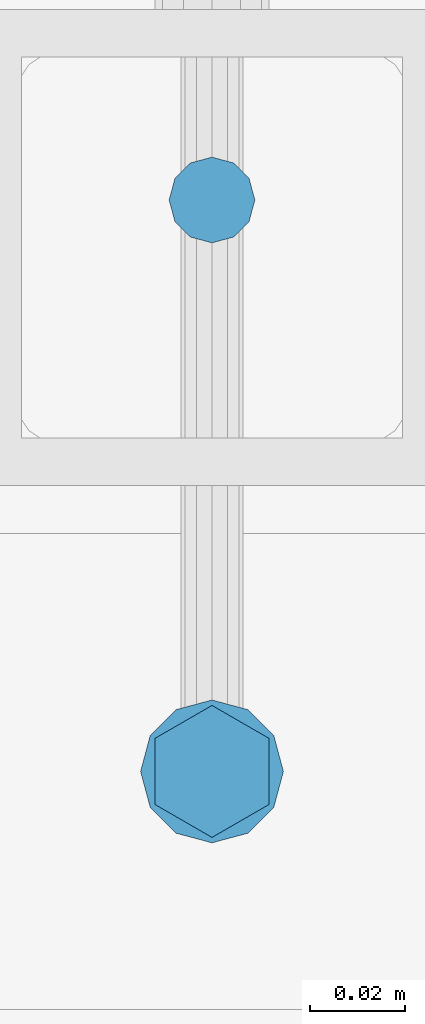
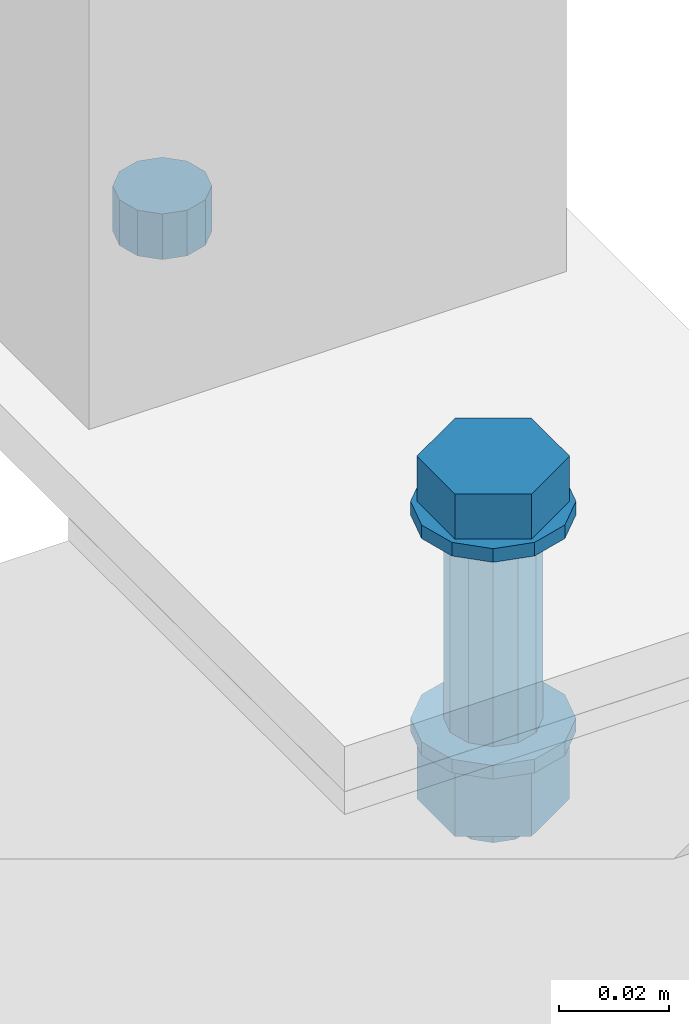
# One storey, part 107 of 1530: 2 mechanical fasteners.
"""IFC2X3 building model written with IfcOpenShell, lengths in millimetres."""

from ifc_helpers import new_model, si_unit, frame, origin_with_axes, place, context, subcontext, project, spatial, faceted_brep, source, transform, mapped, material, type_object, element, save


model = new_model("IFC2X3")

# Units and contexts
model_context = context("Model", 3, precision=1e-05, world=origin_with_axes())
body_context = subcontext(model_context, "Body", "Model", "MODEL_VIEW")
ifc_project = project(units=[si_unit("LENGTHUNIT", "METRE", prefix="MILLI"), si_unit("AREAUNIT", "SQUARE_METRE"), si_unit("VOLUMEUNIT", "CUBIC_METRE"), si_unit("MASSUNIT", "GRAM", prefix="KILO"), si_unit("TIMEUNIT", "SECOND"), si_unit("PLANEANGLEUNIT", "RADIAN"), si_unit("SOLIDANGLEUNIT", "STERADIAN"), si_unit("THERMODYNAMICTEMPERATUREUNIT", "DEGREE_CELSIUS"), si_unit("LUMINOUSINTENSITYUNIT", "LUMEN")], contexts=[model_context])

# Site, building, storey
site_placement = place(None, origin_with_axes())
site = spatial("IfcSite", under=ifc_project, at=site_placement, Name="Brattvåg", CompositionType="ELEMENT")
building_placement = place(site_placement, origin_with_axes())
building = spatial("IfcBuilding", under=site, at=building_placement, Name="Undefined", CompositionType="ELEMENT")
storey_placement = place(building_placement, origin_with_axes())
storey = spatial("IfcBuildingStorey", under=building, at=storey_placement, Name="Undefined", CompositionType="ELEMENT", Elevation=0.0)

# Mechanical fasteners
ifc_material = material(Name="8")
mechanical_fastener_type = type_object("IfcMechanicalFastenerType", Name="Bolt assembly")
shared_shape_1 = source(origin_with_axes(), body_context, "Body", "Brep", [
    faceted_brep([(9.0, -0.000108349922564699, 0.0), (7.79422863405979, -0.000108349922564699, 4.50000000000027), (4.49999999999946, -0.000108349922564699, 7.79422863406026), (-9.3270238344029e-13, -0.000108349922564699, 9.0), (-4.50000000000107, -0.000108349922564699, 7.79422863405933), (-7.79422863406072, -0.000108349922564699, 4.49999999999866), (-9.0, -0.000108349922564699, -1.86540476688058e-12), (-7.79422863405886, -0.000108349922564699, -4.50000000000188), (-4.49999999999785, -0.000108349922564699, -7.79422863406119), (2.78811514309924e-12, -0.000108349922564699, -9.0), (4.50000000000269, -0.000108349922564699, -7.7942286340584), (7.79422863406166, -0.000108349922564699, -4.49999999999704), (7.79422863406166, 10.0998916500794, -4.49999999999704), (4.50000000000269, 10.0998916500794, -7.7942286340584), (2.78811514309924e-12, 10.0998916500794, -9.0), (-4.49999999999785, 10.0998916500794, -7.79422863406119), (-7.79422863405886, 10.0998916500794, -4.50000000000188), (-9.0, 10.0998916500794, -1.86540476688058e-12), (-7.79422863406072, 10.0998916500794, 4.49999999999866), (-4.50000000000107, 10.0998916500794, 7.79422863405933), (-9.3270238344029e-13, 10.0998916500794, 9.0), (4.49999999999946, 10.0998916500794, 7.79422863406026), (7.79422863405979, 10.0998916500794, 4.50000000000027), (9.0, 10.0998916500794, 0.0)], [[[0, 1, 2, 3, 4, 5, 6, 7, 8, 9, 10, 11]], [[12, 13, 14, 15, 16, 17, 18, 19, 20, 21, 22, 23]], [[0, 23, 22, 1]], [[1, 22, 21, 2]], [[2, 21, 20, 3]], [[3, 20, 19, 4]], [[4, 19, 18, 5]], [[5, 18, 17, 6]], [[6, 17, 16, 7]], [[7, 16, 15, 8]], [[8, 15, 14, 9]], [[9, 14, 13, 10]], [[10, 13, 12, 11]], [[11, 12, 23, 0]]]),
])
mechanical_fastener_1_placement = place(storey_placement, frame((16045.0001602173, 9219.99992874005, -855.000061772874), z_axis=(-1.0, 1.99999855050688e-09, 0.0), x_axis=(0.0, -0.99999999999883, 1.53000000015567e-06)))
element("IfcMechanicalFastener", 1, at=mechanical_fastener_1_placement, inside=storey, type_object=mechanical_fastener_type, material=ifc_material, Name="Bolt assembly", NominalDiameter=16.0, NominalLength=10.0001087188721, context=body_context, shape_type="MappedRepresentation", body=[
    mapped(shared_shape_1, transform((0.0, 0.0, 0.0))),
])
shared_shape_2 = source(origin_with_axes(), body_context, "Body", "Brep", [
    faceted_brep([(13.856406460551, -12.9998916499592, 0.0), (6.92820323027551, -12.9998916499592, 12.0), (-6.92820323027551, -12.9998916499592, 12.0), (-13.856406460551, -12.9998916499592, 1.69692038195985e-15), (-6.92820323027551, -12.9998916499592, -12.0), (6.9282032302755, -12.9998916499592, -12.0), (6.9282032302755, -2.99989164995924, -12.0), (-6.92820323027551, -2.99989164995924, -12.0), (-13.856406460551, -2.99989164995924, 1.69692038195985e-15), (-6.92820323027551, -2.99989164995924, 12.0), (6.92820323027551, -2.99989164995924, 12.0), (13.856406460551, -2.99989164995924, 0.0), (8.0, -2.99989164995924, 0.0), (6.92820323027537, -2.99989164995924, 4.00000000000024), (3.99999999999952, -2.99989164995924, 6.92820323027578), (-8.29068785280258e-13, -2.99989164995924, 8.0), (-4.00000000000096, -2.99989164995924, 6.92820323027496), (-6.9282032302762, -2.99989164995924, 3.99999999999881), (-8.0, -2.99989164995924, -1.65813757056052e-12), (-6.92820323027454, -2.99989164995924, -4.00000000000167), (-3.99999999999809, -2.99989164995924, -6.92820323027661), (2.47832457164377e-12, -2.99989164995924, -8.0), (4.00000000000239, -2.99989164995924, -6.92820323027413), (6.92820323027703, -2.99989164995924, -3.99999999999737), (6.92820323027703, 67.0001083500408, -3.99999999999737), (4.00000000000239, 67.0001083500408, -6.92820323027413), (2.47832457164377e-12, 67.0001083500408, -8.0), (-3.99999999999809, 67.0001083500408, -6.92820323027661), (-6.92820323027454, 67.0001083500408, -4.00000000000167), (-8.0, 67.0001083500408, -1.65813757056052e-12), (-6.9282032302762, 67.0001083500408, 3.99999999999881), (-4.00000000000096, 67.0001083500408, 6.92820323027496), (-8.29068785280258e-13, 67.0001083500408, 8.0), (3.99999999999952, 67.0001083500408, 6.92820323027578), (6.92820323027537, 67.0001083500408, 4.00000000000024), (8.0, 67.0001083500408, 0.0), (15.0, -2.99989164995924, 0.0), (12.9903810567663, -2.99989164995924, 7.50000000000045), (7.4999999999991, -2.99989164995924, 12.9903810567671), (-1.55450397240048e-12, -2.99989164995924, 15.0), (-7.50000000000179, -2.99989164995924, 12.9903810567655), (-12.9903810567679, -2.99989164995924, 7.49999999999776), (-15.0, -2.99989164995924, -3.10900794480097e-12), (-12.9903810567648, -2.99989164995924, -7.50000000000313), (-7.49999999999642, -2.99989164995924, -12.9903810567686), (4.64685857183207e-12, -2.99989164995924, -15.0), (7.50000000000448, -2.99989164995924, -12.990381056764), (12.9903810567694, -2.99989164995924, -7.49999999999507), (12.9903810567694, 0.000108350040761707, -7.49999999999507), (7.50000000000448, 0.000108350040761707, -12.990381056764), (4.64685857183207e-12, 0.000108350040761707, -15.0), (-7.49999999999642, 0.000108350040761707, -12.9903810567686), (-12.9903810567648, 0.000108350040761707, -7.50000000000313), (-15.0, 0.000108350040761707, -3.10900794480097e-12), (-12.9903810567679, 0.000108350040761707, 7.49999999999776), (-7.50000000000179, 0.000108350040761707, 12.9903810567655), (-1.55450397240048e-12, 0.000108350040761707, 15.0), (7.4999999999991, 0.000108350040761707, 12.9903810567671), (12.9903810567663, 0.000108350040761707, 7.50000000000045), (15.0, 0.000108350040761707, 0.0), (15.0, 45.0001982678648, 0.0), (12.9903810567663, 45.0001982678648, 7.50000000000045), (7.4999999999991, 45.0001982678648, 12.9903810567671), (-1.55450397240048e-12, 45.0001982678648, 15.0), (-7.50000000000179, 45.0001982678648, 12.9903810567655), (-12.9903810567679, 45.0001982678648, 7.49999999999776), (-15.0, 45.0001982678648, -3.10900794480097e-12), (-12.9903810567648, 45.0001982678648, -7.50000000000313), (-7.49999999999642, 45.0001982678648, -12.9903810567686), (4.64685857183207e-12, 45.0001982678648, -15.0), (7.50000000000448, 45.0001982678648, -12.990381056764), (12.9903810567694, 45.0001982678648, -7.49999999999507), (12.9903810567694, 48.0001982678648, -7.49999999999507), (7.50000000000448, 48.0001982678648, -12.990381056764), (4.64685857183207e-12, 48.0001982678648, -15.0), (-7.49999999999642, 48.0001982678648, -12.9903810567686), (-12.9903810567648, 48.0001982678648, -7.50000000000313), (-15.0, 48.0001982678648, -3.10900794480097e-12), (-12.9903810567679, 48.0001982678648, 7.49999999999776), (-7.50000000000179, 48.0001982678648, 12.9903810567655), (-1.55450397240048e-12, 48.0001982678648, 15.0), (7.4999999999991, 48.0001982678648, 12.9903810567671), (12.9903810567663, 48.0001982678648, 7.50000000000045), (15.0, 48.0001982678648, 0.0), (13.856406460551, 48.0001982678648, 0.0), (6.92820323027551, 48.0001982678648, 12.0), (-6.92820323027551, 48.0001982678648, 12.0), (-13.856406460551, 48.0001982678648, 1.69692038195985e-15), (-6.92820323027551, 48.0001982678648, -12.0), (6.9282032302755, 48.0001982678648, -12.0), (6.9282032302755, 62.8001984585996, -12.0), (-6.92820323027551, 62.8001984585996, -12.0), (-13.856406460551, 62.8001984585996, 1.69692038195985e-15), (-6.92820323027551, 62.8001984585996, 12.0), (6.92820323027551, 62.8001984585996, 12.0), (13.856406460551, 62.8001984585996, 0.0)], [[[0, 1, 2, 3, 4, 5]], [[6, 7, 8, 9, 10, 11]], [[0, 11, 10, 1]], [[1, 10, 9, 2]], [[2, 9, 8, 3]], [[3, 8, 7, 4]], [[4, 7, 6, 5]], [[5, 6, 11, 0]], [[12, 13, 14, 15, 16, 17, 18, 19, 20, 21, 22, 23]], [[24, 25, 26, 27, 28, 29, 30, 31, 32, 33, 34, 35]], [[12, 35, 34, 13]], [[13, 34, 33, 14]], [[14, 33, 32, 15]], [[15, 32, 31, 16]], [[16, 31, 30, 17]], [[17, 30, 29, 18]], [[18, 29, 28, 19]], [[19, 28, 27, 20]], [[20, 27, 26, 21]], [[21, 26, 25, 22]], [[22, 25, 24, 23]], [[23, 24, 35, 12]], [[36, 37, 38, 39, 40, 41, 42, 43, 44, 45, 46, 47]], [[48, 49, 50, 51, 52, 53, 54, 55, 56, 57, 58, 59]], [[36, 59, 58, 37]], [[37, 58, 57, 38]], [[38, 57, 56, 39]], [[39, 56, 55, 40]], [[40, 55, 54, 41]], [[41, 54, 53, 42]], [[42, 53, 52, 43]], [[43, 52, 51, 44]], [[44, 51, 50, 45]], [[45, 50, 49, 46]], [[46, 49, 48, 47]], [[47, 48, 59, 36]], [[60, 61, 62, 63, 64, 65, 66, 67, 68, 69, 70, 71]], [[72, 73, 74, 75, 76, 77, 78, 79, 80, 81, 82, 83]], [[60, 83, 82, 61]], [[61, 82, 81, 62]], [[62, 81, 80, 63]], [[63, 80, 79, 64]], [[64, 79, 78, 65]], [[65, 78, 77, 66]], [[66, 77, 76, 67]], [[67, 76, 75, 68]], [[68, 75, 74, 69]], [[69, 74, 73, 70]], [[70, 73, 72, 71]], [[71, 72, 83, 60]], [[84, 85, 86, 87, 88, 89]], [[90, 91, 92, 93, 94, 95]], [[84, 95, 94, 85]], [[85, 94, 93, 86]], [[86, 93, 92, 87]], [[87, 92, 91, 88]], [[88, 91, 90, 89]], [[89, 90, 95, 84]]]),
    faceted_brep([(9.0, 0.100108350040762, 0.0), (7.79422863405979, 0.100108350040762, 4.50000000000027), (4.49999999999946, 0.100108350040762, 7.79422863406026), (-9.3270238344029e-13, 0.100108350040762, 9.0), (-4.50000000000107, 0.100108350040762, 7.79422863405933), (-7.79422863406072, 0.100108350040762, 4.49999999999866), (-9.0, 0.100108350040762, -1.86540476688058e-12), (-7.79422863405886, 0.100108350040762, -4.50000000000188), (-4.49999999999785, 0.100108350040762, -7.79422863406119), (2.78811514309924e-12, 0.100108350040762, -9.0), (4.50000000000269, 0.100108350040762, -7.7942286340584), (7.79422863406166, 0.100108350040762, -4.49999999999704), (7.79422863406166, 10.10010835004, -4.49999999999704), (4.50000000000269, 10.10010835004, -7.7942286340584), (2.78811514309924e-12, 10.10010835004, -9.0), (-4.49999999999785, 10.10010835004, -7.79422863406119), (-7.79422863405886, 10.10010835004, -4.50000000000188), (-9.0, 10.10010835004, -1.86540476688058e-12), (-7.79422863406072, 10.10010835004, 4.49999999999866), (-4.50000000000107, 10.10010835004, 7.79422863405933), (-9.3270238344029e-13, 10.10010835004, 9.0), (4.49999999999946, 10.10010835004, 7.79422863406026), (7.79422863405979, 10.10010835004, 4.50000000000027), (9.0, 10.10010835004, 0.0), (9.0, 10.0002383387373, 0.0), (7.79422863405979, 10.0002383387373, 4.50000000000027), (4.49999999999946, 10.0002383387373, 7.79422863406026), (-9.3270238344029e-13, 10.0002383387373, 9.0), (-4.50000000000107, 10.0002383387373, 7.79422863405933), (-7.79422863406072, 10.0002383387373, 4.49999999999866), (-9.0, 10.0002383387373, -1.86540476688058e-12), (-7.79422863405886, 10.0002383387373, -4.50000000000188), (-4.49999999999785, 10.0002383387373, -7.79422863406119), (2.78811514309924e-12, 10.0002383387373, -9.0), (4.50000000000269, 10.0002383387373, -7.7942286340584), (7.79422863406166, 10.0002383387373, -4.49999999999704), (7.79422863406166, 15.000238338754, -4.49999999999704), (4.50000000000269, 15.000238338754, -7.7942286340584), (2.78811514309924e-12, 15.000238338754, -9.0), (-4.49999999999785, 15.000238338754, -7.79422863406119), (-7.79422863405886, 15.000238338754, -4.50000000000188), (-9.0, 15.000238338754, -1.86540476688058e-12), (-7.79422863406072, 15.000238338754, 4.49999999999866), (-4.50000000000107, 15.000238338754, 7.79422863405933), (-9.3270238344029e-13, 15.000238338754, 9.0), (4.49999999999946, 15.000238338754, 7.79422863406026), (7.79422863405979, 15.000238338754, 4.50000000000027), (9.0, 15.000238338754, 0.0), (9.0, 14.9001982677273, 0.0), (7.79422863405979, 14.9001982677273, 4.50000000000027), (4.49999999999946, 14.9001982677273, 7.79422863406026), (-9.3270238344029e-13, 14.9001982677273, 9.0), (-4.50000000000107, 14.9001982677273, 7.79422863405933), (-7.79422863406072, 14.9001982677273, 4.49999999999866), (-9.0, 14.9001982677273, -1.86540476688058e-12), (-7.79422863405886, 14.9001982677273, -4.50000000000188), (-4.49999999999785, 14.9001982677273, -7.79422863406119), (2.78811514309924e-12, 14.9001982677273, -9.0), (4.50000000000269, 14.9001982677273, -7.7942286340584), (7.79422863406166, 14.9001982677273, -4.49999999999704), (7.79422863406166, 45.0001982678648, -4.49999999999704), (4.50000000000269, 45.0001982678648, -7.7942286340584), (2.78811514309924e-12, 45.0001982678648, -9.0), (-4.49999999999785, 45.0001982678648, -7.79422863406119), (-7.79422863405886, 45.0001982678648, -4.50000000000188), (-9.0, 45.0001982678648, -1.86540476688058e-12), (-7.79422863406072, 45.0001982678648, 4.49999999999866), (-4.50000000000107, 45.0001982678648, 7.79422863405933), (-9.3270238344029e-13, 45.0001982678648, 9.0), (4.49999999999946, 45.0001982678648, 7.79422863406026), (7.79422863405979, 45.0001982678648, 4.50000000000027), (9.0, 45.0001982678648, 0.0)], [[[0, 1, 2, 3, 4, 5, 6, 7, 8, 9, 10, 11]], [[12, 13, 14, 15, 16, 17, 18, 19, 20, 21, 22, 23]], [[0, 23, 22, 1]], [[1, 22, 21, 2]], [[2, 21, 20, 3]], [[3, 20, 19, 4]], [[4, 19, 18, 5]], [[5, 18, 17, 6]], [[6, 17, 16, 7]], [[7, 16, 15, 8]], [[8, 15, 14, 9]], [[9, 14, 13, 10]], [[10, 13, 12, 11]], [[11, 12, 23, 0]], [[24, 25, 26, 27, 28, 29, 30, 31, 32, 33, 34, 35]], [[36, 37, 38, 39, 40, 41, 42, 43, 44, 45, 46, 47]], [[24, 47, 46, 25]], [[25, 46, 45, 26]], [[26, 45, 44, 27]], [[27, 44, 43, 28]], [[28, 43, 42, 29]], [[29, 42, 41, 30]], [[30, 41, 40, 31]], [[31, 40, 39, 32]], [[32, 39, 38, 33]], [[33, 38, 37, 34]], [[34, 37, 36, 35]], [[35, 36, 47, 24]], [[48, 49, 50, 51, 52, 53, 54, 55, 56, 57, 58, 59]], [[60, 61, 62, 63, 64, 65, 66, 67, 68, 69, 70, 71]], [[48, 71, 70, 49]], [[49, 70, 69, 50]], [[50, 69, 68, 51]], [[51, 68, 67, 52]], [[52, 67, 66, 53]], [[53, 66, 65, 54]], [[54, 65, 64, 55]], [[55, 64, 63, 56]], [[56, 63, 62, 57]], [[57, 62, 61, 58]], [[58, 61, 60, 59]], [[59, 60, 71, 48]]]),
])
mechanical_fastener_2_placement = place(storey_placement, frame((16045.0001602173, 9099.99968338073, -844.999801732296), z_axis=(-1.0, 1.99999855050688e-09, 0.0), x_axis=(0.0, 0.999999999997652, -2.16700000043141e-06)))
element("IfcMechanicalFastener", 2, at=mechanical_fastener_2_placement, inside=storey, type_object=mechanical_fastener_type, material=ifc_material, Name="Bolt assembly", NominalDiameter=16.0, NominalLength=70.0, context=body_context, shape_type="MappedRepresentation", body=[
    mapped(shared_shape_2, transform((0.0, 0.0, 0.0))),
])

save(model, "model.ifc")
